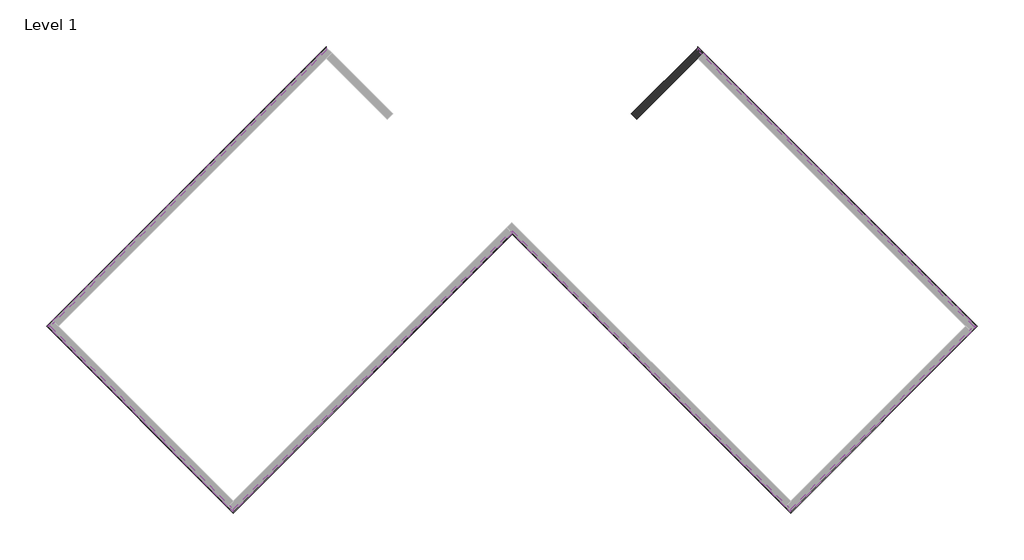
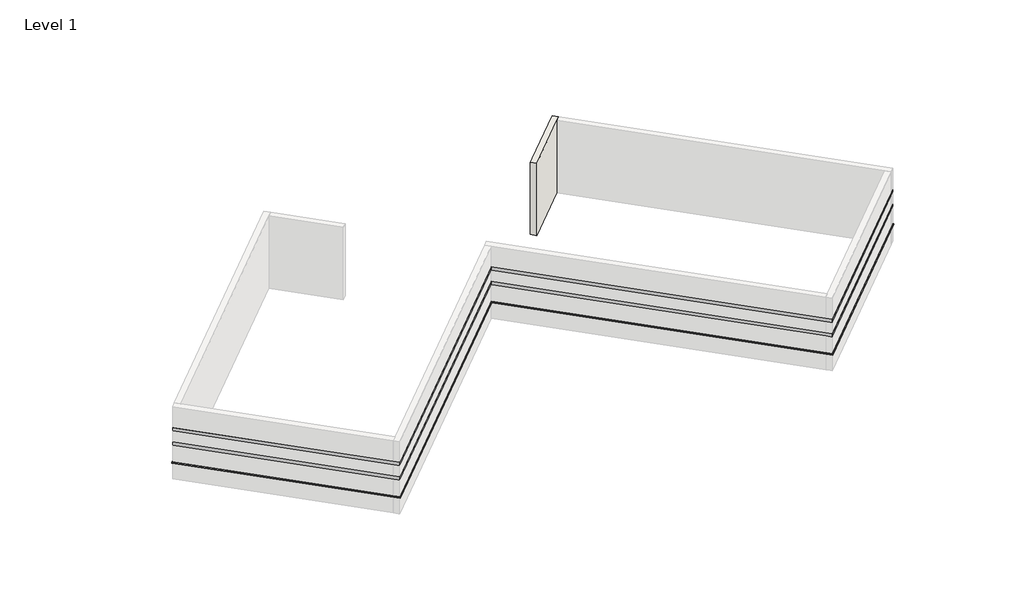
# One storey, part 2 of 2: 18 proxies, 1 wall.
"""IFC4 building model written with IfcOpenShell, lengths in millimetres."""

from ifc_helpers import new_model, si_unit, frame, origin, place, context, project, spatial, polyline, circle_curve, faceted_brep, element, save
from ifc_brep_helpers import plane_surface, cylinder_surface, revolved_surface, advanced_brep

model = new_model("IFC4")

# Units and contexts
model_context = context("Model", 3, world=origin())
ifc_project = project(units=[si_unit("LENGTHUNIT", "METRE", prefix="MILLI")], contexts=[model_context])

# Site, building, storey
site = spatial("IfcSite", under=ifc_project)
building = spatial("IfcBuilding", under=site)
storey = spatial("IfcBuildingStorey", under=building, Name="Level 1", Elevation=0.0)

# Proxies
placement = place(None, origin())
element("IfcBuildingElementProxy", 1, Name="Wall Sweeps", at=placement, inside=storey, context=model_context, shape_type="Brep", body=[
    faceted_brep([(5178.0352806, 10812.8792927, 1085.85), (5178.0352806, 10943.0930065, 1085.85), (5178.0352806, 10992.4844151, 1041.4), (5178.0352806, 10992.4844151, 1016.0), (5178.0352806, 10812.8792927, 1016.0), (17979.3903812, -1988.4758079, 1085.85), (17979.3903812, -1988.4758079, 1016.0), (18158.9955036, -1988.4758079, 1016.0), (18158.9955036, -1988.4758079, 1041.4), (18109.604095, -1988.4758079, 1085.85), (5362.1305311, 10628.7840422, 1085.85), (5362.1305311, 10628.7840422, 1016.0)], [[[0, 1, 2, 3, 4]], [[5, 6, 7, 8, 9]], [[1, 0, 10, 5, 9]], [[2, 1, 9, 8]], [[3, 2, 8, 7]], [[4, 3, 7, 6, 11]], [[0, 4, 11, 6, 5, 10]]]),
])
element("IfcBuildingElementProxy", 2, Name="Wall Sweeps", at=placement, inside=storey, context=model_context, shape_type="Brep", body=[
    faceted_brep([(5178.0352806, 10943.0930065, 2336.8), (5178.0352806, 10943.0930065, 2133.6), (5178.0352806, 10812.8792927, 2133.6), (5178.0352806, 10812.8792927, 2336.8), (18109.604095, -1988.4758079, 2336.8), (17979.3903812, -1988.4758079, 2336.8), (17979.3903812, -1988.4758079, 2133.6), (18109.604095, -1988.4758079, 2133.6), (5427.237388, 10693.8908991, 2336.8), (5427.237388, 10693.8908991, 2133.6), (5362.1305311, 10628.7840422, 2133.6), (5362.1305311, 10628.7840422, 2336.8)], [[[0, 1, 2, 3]], [[4, 5, 6, 7]], [[1, 0, 8, 4, 7, 9]], [[2, 1, 9, 7, 6, 10]], [[3, 2, 10, 6, 5, 11]], [[0, 3, 11, 5, 4, 8]]]),
])
element("IfcBuildingElementProxy", 3, Name="Wall Sweeps", at=placement, inside=storey, context=model_context, shape_type="Brep", body=[
    faceted_brep([(5178.0352806, 10943.0930065, 3251.2), (5178.0352806, 10943.0930065, 3048.0), (5178.0352806, 10812.8792927, 3048.0), (5178.0352806, 10812.8792927, 3251.2), (18109.604095, -1988.4758079, 3251.2), (17979.3903812, -1988.4758079, 3251.2), (17979.3903812, -1988.4758079, 3048.0), (18109.604095, -1988.4758079, 3048.0), (5427.237388, 10693.8908991, 3251.2), (5427.237388, 10693.8908991, 3048.0), (5362.1305311, 10628.7840422, 3048.0), (5362.1305311, 10628.7840422, 3251.2)], [[[0, 1, 2, 3]], [[4, 5, 6, 7]], [[1, 0, 8, 4, 7, 9]], [[2, 1, 9, 7, 6, 10]], [[3, 2, 10, 6, 5, 11]], [[0, 3, 11, 5, 4, 8]]]),
])
element("IfcBuildingElementProxy", 4, Name="Wall Sweeps", at=placement, inside=storey, context=model_context, shape_type="Brep", body=[
    faceted_brep([(17979.3903812, -1988.4758079, 1085.85), (18109.604095, -1988.4758079, 1085.85), (18158.9955036, -1988.4758079, 1041.4), (18158.9955036, -1988.4758079, 1016.0), (17979.3903812, -1988.4758079, 1016.0), (9488.5582187, -10479.3079703, 1085.85), (9488.5582187, -10479.3079703, 1016.0), (9488.5582187, -10658.9130928, 1016.0), (9488.5582187, -10658.9130928, 1041.4), (9488.5582187, -10609.5216841, 1085.85), (17795.2951307, -2172.5710583, 1085.85), (17795.2951307, -2172.5710583, 1016.0)], [[[0, 1, 2, 3, 4]], [[5, 6, 7, 8, 9]], [[1, 0, 10, 5, 9]], [[2, 1, 9, 8]], [[3, 2, 8, 7]], [[4, 3, 7, 6, 11]], [[0, 4, 11, 6, 5, 10]]]),
])
element("IfcBuildingElementProxy", 5, Name="Wall Sweeps", at=placement, inside=storey, context=model_context, shape_type="Brep", body=[
    faceted_brep([(18109.604095, -1988.4758079, 2336.8), (18109.604095, -1988.4758079, 2133.6), (17979.3903812, -1988.4758079, 2133.6), (17979.3903812, -1988.4758079, 2336.8), (9488.5582187, -10609.5216841, 2336.8), (9488.5582187, -10479.3079703, 2336.8), (9488.5582187, -10479.3079703, 2133.6), (9488.5582187, -10609.5216841, 2133.6), (17860.4019876, -2237.6779152, 2336.8), (17860.4019876, -2237.6779152, 2133.6), (17795.2951307, -2172.5710583, 2133.6), (17795.2951307, -2172.5710583, 2336.8)], [[[0, 1, 2, 3]], [[4, 5, 6, 7]], [[1, 0, 8, 4, 7, 9]], [[2, 1, 9, 7, 6, 10]], [[3, 2, 10, 6, 5, 11]], [[0, 3, 11, 5, 4, 8]]]),
])
element("IfcBuildingElementProxy", 6, Name="Wall Sweeps", at=placement, inside=storey, context=model_context, shape_type="Brep", body=[
    faceted_brep([(18109.604095, -1988.4758079, 3251.2), (18109.604095, -1988.4758079, 3048.0), (17979.3903812, -1988.4758079, 3048.0), (17979.3903812, -1988.4758079, 3251.2), (9488.5582187, -10609.5216841, 3251.2), (9488.5582187, -10479.3079703, 3251.2), (9488.5582187, -10479.3079703, 3048.0), (9488.5582187, -10609.5216841, 3048.0), (17860.4019876, -2237.6779152, 3251.2), (17860.4019876, -2237.6779152, 3048.0), (17795.2951307, -2172.5710583, 3048.0), (17795.2951307, -2172.5710583, 3251.2)], [[[0, 1, 2, 3]], [[4, 5, 6, 7]], [[1, 0, 8, 4, 7, 9]], [[2, 1, 9, 7, 6, 10]], [[3, 2, 10, 6, 5, 11]], [[0, 3, 11, 5, 4, 8]]]),
])
element("IfcBuildingElementProxy", 7, Name="Wall Sweeps", at=placement, inside=storey, context=model_context, shape_type="Brep", body=[
    faceted_brep([(9488.5582187, -10479.3079703, 1085.85), (9488.5582187, -10609.5216841, 1085.85), (9488.5582187, -10658.9130928, 1041.4), (9488.5582187, -10658.9130928, 1016.0), (9488.5582187, -10479.3079703, 1016.0), (-3443.0105956, 2452.260844, 1085.85), (-3443.0105956, 2452.260844, 1016.0), (-3443.0105956, 2272.6557216, 1016.0), (-3443.0105956, 2272.6557216, 1041.4), (-3443.0105956, 2322.0471303, 1085.85), (9304.4629682, -10295.2127199, 1085.85), (9304.4629682, -10295.2127199, 1016.0)], [[[0, 1, 2, 3, 4]], [[5, 6, 7, 8, 9]], [[1, 0, 10, 5, 9]], [[2, 1, 9, 8]], [[3, 2, 8, 7]], [[4, 3, 7, 6, 11]], [[0, 4, 11, 6, 5, 10]]]),
])
element("IfcBuildingElementProxy", 8, Name="Wall Sweeps", at=placement, inside=storey, context=model_context, shape_type="Brep", body=[
    faceted_brep([(9488.5582187, -10609.5216841, 2336.8), (9488.5582187, -10609.5216841, 2133.6), (9488.5582187, -10479.3079703, 2133.6), (9488.5582187, -10479.3079703, 2336.8), (-3443.0105956, 2322.0471303, 2336.8), (-3443.0105956, 2452.260844, 2336.8), (-3443.0105956, 2452.260844, 2133.6), (-3443.0105956, 2322.0471303, 2133.6), (9239.3561114, -10360.3195767, 2336.8), (9239.3561114, -10360.3195767, 2133.6), (9304.4629682, -10295.2127199, 2133.6), (9304.4629682, -10295.2127199, 2336.8)], [[[0, 1, 2, 3]], [[4, 5, 6, 7]], [[1, 0, 8, 4, 7, 9]], [[2, 1, 9, 7, 6, 10]], [[3, 2, 10, 6, 5, 11]], [[0, 3, 11, 5, 4, 8]]]),
])
element("IfcBuildingElementProxy", 9, Name="Wall Sweeps", at=placement, inside=storey, context=model_context, shape_type="Brep", body=[
    faceted_brep([(9488.5582187, -10609.5216841, 3251.2), (9488.5582187, -10609.5216841, 3048.0), (9488.5582187, -10479.3079703, 3048.0), (9488.5582187, -10479.3079703, 3251.2), (-3443.0105956, 2322.0471303, 3251.2), (-3443.0105956, 2452.260844, 3251.2), (-3443.0105956, 2452.260844, 3048.0), (-3443.0105956, 2322.0471303, 3048.0), (9239.3561114, -10360.3195767, 3251.2), (9239.3561114, -10360.3195767, 3048.0), (9304.4629682, -10295.2127199, 3048.0), (9304.4629682, -10295.2127199, 3251.2)], [[[0, 1, 2, 3]], [[4, 5, 6, 7]], [[1, 0, 8, 4, 7, 9]], [[2, 1, 9, 7, 6, 10]], [[3, 2, 10, 6, 5, 11]], [[0, 3, 11, 5, 4, 8]]]),
])
element("IfcBuildingElementProxy", 10, Name="Wall Sweeps", at=placement, inside=storey, context=model_context, shape_type="Brep", body=[
    faceted_brep([(-3443.0105956, 2452.260844, 1085.85), (-3443.0105956, 2322.0471303, 1085.85), (-3443.0105956, 2272.6557216, 1041.4), (-3443.0105956, 2272.6557216, 1016.0), (-3443.0105956, 2452.260844, 1016.0), (-16374.5794099, -10479.3079703, 1085.85), (-16374.5794099, -10479.3079703, 1016.0), (-16374.5794099, -10658.9130928, 1016.0), (-16374.5794099, -10658.9130928, 1041.4), (-16374.5794099, -10609.5216841, 1085.85), (-3508.1174525, 2387.1539871, 1085.85), (-3508.1174525, 2387.1539871, 1016.0)], [[[0, 1, 2, 3, 4]], [[5, 6, 7, 8, 9]], [[1, 0, 10, 5, 9]], [[2, 1, 9, 8]], [[3, 2, 8, 7]], [[4, 3, 7, 6, 11]], [[0, 4, 11, 6, 5, 10]]]),
])
element("IfcBuildingElementProxy", 11, Name="Wall Sweeps", at=placement, inside=storey, context=model_context, shape_type="Brep", body=[
    faceted_brep([(-3443.0105956, 2322.0471303, 2336.8), (-3443.0105956, 2322.0471303, 2133.6), (-3443.0105956, 2452.260844, 2133.6), (-3443.0105956, 2452.260844, 2336.8), (-16374.5794099, -10609.5216841, 2336.8), (-16374.5794099, -10479.3079703, 2336.8), (-16374.5794099, -10479.3079703, 2133.6), (-16374.5794099, -10609.5216841, 2133.6), (-3508.1174525, 2387.1539871, 2133.6), (-3508.1174525, 2387.1539871, 2336.8)], [[[0, 1, 2, 3]], [[4, 5, 6, 7]], [[1, 0, 4, 7]], [[2, 1, 7, 6, 8]], [[3, 2, 8, 6, 5, 9]], [[0, 3, 9, 5, 4]]]),
])
element("IfcBuildingElementProxy", 12, Name="Wall Sweeps", at=placement, inside=storey, context=model_context, shape_type="Brep", body=[
    faceted_brep([(-3443.0105956, 2322.0471303, 3251.2), (-3443.0105956, 2322.0471303, 3048.0), (-3443.0105956, 2452.260844, 3048.0), (-3443.0105956, 2452.260844, 3251.2), (-16374.5794099, -10609.5216841, 3251.2), (-16374.5794099, -10479.3079703, 3251.2), (-16374.5794099, -10479.3079703, 3048.0), (-16374.5794099, -10609.5216841, 3048.0), (-3508.1174525, 2387.1539871, 3048.0), (-3508.1174525, 2387.1539871, 3251.2)], [[[0, 1, 2, 3]], [[4, 5, 6, 7]], [[1, 0, 4, 7]], [[2, 1, 7, 6, 8]], [[3, 2, 8, 6, 5, 9]], [[0, 3, 9, 5, 4]]]),
])
element("IfcBuildingElementProxy", 13, Name="Wall Sweeps", at=placement, inside=storey, context=model_context, shape_type="Brep", body=[
    faceted_brep([(-16374.5794099, -10479.3079703, 1085.85), (-16374.5794099, -10609.5216841, 1085.85), (-16374.5794099, -10658.9130928, 1041.4), (-16374.5794099, -10658.9130928, 1016.0), (-16374.5794099, -10479.3079703, 1016.0), (-24865.4115724, -1988.4758079, 1085.85), (-24865.4115724, -1988.4758079, 1016.0), (-25045.0166948, -1988.4758079, 1016.0), (-25045.0166948, -1988.4758079, 1041.4), (-24995.6252862, -1988.4758079, 1085.85), (-16558.6746604, -10295.2127199, 1085.85), (-16558.6746604, -10295.2127199, 1016.0)], [[[0, 1, 2, 3, 4]], [[5, 6, 7, 8, 9]], [[1, 0, 10, 5, 9]], [[2, 1, 9, 8]], [[3, 2, 8, 7]], [[4, 3, 7, 6, 11]], [[0, 4, 11, 6, 5, 10]]]),
])
element("IfcBuildingElementProxy", 14, Name="Wall Sweeps", at=placement, inside=storey, context=model_context, shape_type="Brep", body=[
    faceted_brep([(-16374.5794099, -10609.5216841, 2336.8), (-16374.5794099, -10609.5216841, 2133.6), (-16374.5794099, -10479.3079703, 2133.6), (-16374.5794099, -10479.3079703, 2336.8), (-24995.6252862, -1988.4758079, 2336.8), (-24865.4115724, -1988.4758079, 2336.8), (-24865.4115724, -1988.4758079, 2133.6), (-24995.6252862, -1988.4758079, 2133.6), (-16623.7815173, -10360.3195767, 2336.8), (-16623.7815173, -10360.3195767, 2133.6), (-16558.6746604, -10295.2127199, 2133.6), (-16558.6746604, -10295.2127199, 2336.8)], [[[0, 1, 2, 3]], [[4, 5, 6, 7]], [[1, 0, 8, 4, 7, 9]], [[2, 1, 9, 7, 6, 10]], [[3, 2, 10, 6, 5, 11]], [[0, 3, 11, 5, 4, 8]]]),
])
element("IfcBuildingElementProxy", 15, Name="Wall Sweeps", at=placement, inside=storey, context=model_context, shape_type="Brep", body=[
    faceted_brep([(-16374.5794099, -10609.5216841, 3251.2), (-16374.5794099, -10609.5216841, 3048.0), (-16374.5794099, -10479.3079703, 3048.0), (-16374.5794099, -10479.3079703, 3251.2), (-24995.6252862, -1988.4758079, 3251.2), (-24865.4115724, -1988.4758079, 3251.2), (-24865.4115724, -1988.4758079, 3048.0), (-24995.6252862, -1988.4758079, 3048.0), (-16623.7815173, -10360.3195767, 3251.2), (-16623.7815173, -10360.3195767, 3048.0), (-16558.6746604, -10295.2127199, 3048.0), (-16558.6746604, -10295.2127199, 3251.2)], [[[0, 1, 2, 3]], [[4, 5, 6, 7]], [[1, 0, 8, 4, 7, 9]], [[2, 1, 9, 7, 6, 10]], [[3, 2, 10, 6, 5, 11]], [[0, 3, 11, 5, 4, 8]]]),
])
element("IfcBuildingElementProxy", 16, Name="Wall Sweeps", at=placement, inside=storey, context=model_context, shape_type="Brep", body=[
    faceted_brep([(-24865.4115724, -1988.4758079, 1085.85), (-24995.6252862, -1988.4758079, 1085.85), (-25045.0166948, -1988.4758079, 1041.4), (-25045.0166948, -1988.4758079, 1016.0), (-24865.4115724, -1988.4758079, 1016.0), (-12064.0564718, 10812.8792927, 1085.85), (-12064.0564718, 10812.8792927, 1016.0), (-12064.0564718, 10992.4844151, 1016.0), (-12064.0564718, 10992.4844151, 1041.4), (-12064.0564718, 10943.0930065, 1085.85), (-24681.3163219, -1804.3805574, 1085.85), (-24681.3163219, -1804.3805574, 1016.0)], [[[0, 1, 2, 3, 4]], [[5, 6, 7, 8, 9]], [[1, 0, 10, 5, 9]], [[2, 1, 9, 8]], [[3, 2, 8, 7]], [[4, 3, 7, 6, 11]], [[0, 4, 11, 6, 5, 10]]]),
])
element("IfcBuildingElementProxy", 17, Name="Wall Sweeps", at=placement, inside=storey, context=model_context, shape_type="Brep", body=[
    faceted_brep([(-24995.6252862, -1988.4758079, 2336.8), (-24995.6252862, -1988.4758079, 2133.6), (-24865.4115724, -1988.4758079, 2133.6), (-24865.4115724, -1988.4758079, 2336.8), (-12064.0564718, 10943.0930065, 2336.8), (-12064.0564718, 10812.8792927, 2336.8), (-12064.0564718, 10812.8792927, 2133.6), (-12064.0564718, 10943.0930065, 2133.6), (-24746.4231788, -1739.2737005, 2336.8), (-24746.4231788, -1739.2737005, 2133.6), (-24681.3163219, -1804.3805574, 2133.6), (-24681.3163219, -1804.3805574, 2336.8)], [[[0, 1, 2, 3]], [[4, 5, 6, 7]], [[1, 0, 8, 4, 7, 9]], [[2, 1, 9, 7, 6, 10]], [[3, 2, 10, 6, 5, 11]], [[0, 3, 11, 5, 4, 8]]]),
])
element("IfcBuildingElementProxy", 18, Name="Wall Sweeps", at=placement, inside=storey, context=model_context, shape_type="Brep", body=[
    faceted_brep([(-24995.6252862, -1988.4758079, 3251.2), (-24995.6252862, -1988.4758079, 3048.0), (-24865.4115724, -1988.4758079, 3048.0), (-24865.4115724, -1988.4758079, 3251.2), (-12064.0564718, 10943.0930065, 3251.2), (-12064.0564718, 10812.8792927, 3251.2), (-12064.0564718, 10812.8792927, 3048.0), (-12064.0564718, 10943.0930065, 3048.0), (-24746.4231788, -1739.2737005, 3251.2), (-24746.4231788, -1739.2737005, 3048.0), (-24681.3163219, -1804.3805574, 3048.0), (-24681.3163219, -1804.3805574, 3251.2)], [[[0, 1, 2, 3]], [[4, 5, 6, 7]], [[1, 0, 8, 4, 7, 9]], [[2, 1, 9, 7, 6, 10]], [[3, 2, 10, 6, 5, 11]], [[0, 3, 11, 5, 4, 8]]]),
])

# Wall
element("IfcWall", 19, ObjectType="Exterior - Split Face and CMU on Mtl. Stud", at=placement, inside=storey, context=model_context, shape_type="AdvancedBrep", body=[
    advanced_brep(
    [(2346.973313, 7613.6268242, 0.0), (5178.0352806, 10444.6887918, 0.0), (5427.237388, 10693.8908991, 0.0), (5427.237388, 10693.8908991, 1016.0), (5362.1305311, 10628.7840422, 1016.0), (5362.1305311, 10628.7840422, 1085.85), (5427.237388, 10693.8908991, 1085.85), (5427.237388, 10693.8908991, 2133.6), (5362.1305311, 10628.7840422, 2133.6), (5362.1305311, 10628.7840422, 2336.8), (5427.237388, 10693.8908991, 2336.8), (5427.237388, 10693.8908991, 3048.0), (5362.1305311, 10628.7840422, 3048.0), (5362.1305311, 10628.7840422, 3251.2), (5427.237388, 10693.8908991, 3251.2), (5427.237388, 10693.8908991, 4572.0), (5178.0352806, 10444.6887918, 4572.0), (2346.973313, 7613.6268242, 4572.0), (2102.2428123, 7867.3005381, 4572.0), (2351.4472641, 8116.50499, 4572.0), (5178.0352806, 10943.0930065, 4572.0), (5178.0352806, 10943.0930065, 3251.2), (2351.4472641, 8116.50499, 3251.2), (2286.3398143, 8051.3975402, 3251.2), (2286.3398143, 8051.3975402, 3048.0), (2351.4472641, 8116.50499, 3048.0), (5178.0352806, 10943.0930065, 3048.0), (5178.0352806, 10943.0930065, 2336.8), (2351.4472641, 8116.50499, 2336.8), (2286.3398143, 8051.3975402, 2336.8), (2286.3398143, 8051.3975402, 2133.6), (2351.4472641, 8116.50499, 2133.6), (5178.0352806, 10943.0930065, 2133.6), (5178.0352806, 10943.0930065, 1085.85), (2351.4472641, 8116.50499, 1085.85), (2286.3398143, 8051.3975402, 1085.85), (2286.3398143, 8051.3975402, 1016.0), (2351.4472641, 8116.50499, 1016.0), (5178.0352806, 10943.0930065, 1016.0), (5178.0352806, 10943.0930065, 0.0), (2351.4472641, 8116.50499, 0.0), (2102.2428123, 7867.3005381, 0.0), (2167.2578198, 7802.1018319, 0.0), (5243.1421375, 10877.9861496, 0.0), (2351.3577606, 7986.2017727, 1016.0), (2351.3577606, 7986.2017727, 1085.85), (5178.0352806, 10812.8792927, 1085.85), (5178.0352806, 10812.8792927, 1016.0), (2351.3577606, 7986.2017727, 2133.6), (2351.3577606, 7986.2017727, 2336.8), (5178.0352806, 10812.8792927, 2336.8), (5178.0352806, 10812.8792927, 2133.6), (5178.0352806, 10812.8792927, 3048.0), (2351.3577606, 7986.2017727, 3048.0), (2351.3577606, 7986.2017727, 3251.2), (5178.0352806, 10812.8792927, 3251.2)],
    [
        (0, 1),
        (1, 2),
        (2, 3),
        (3, 4),
        (4, 5),
        (5, 6),
        (6, 7),
        (7, 8),
        (8, 9),
        (9, 10),
        (10, 11),
        (11, 12),
        (12, 13),
        (13, 14),
        (14, 15),
        (15, 16),
        (16, 17),
        (17, 0),
        (18, 19),
        (19, 20),
        (20, 21),
        (21, 22),
        (22, 23),
        (23, 24),
        (24, 25),
        (25, 26),
        (26, 27),
        (27, 28),
        (28, 29),
        (29, 30),
        (30, 31),
        (31, 32),
        (32, 33),
        (33, 34),
        (34, 35),
        (35, 36),
        (36, 37),
        (37, 38),
        (38, 39),
        (39, 40),
        (40, 41),
        (41, 18),
        (15, 20),
        (18, 17, circle_curve(frame((-3443.0105956, 2272.6557216, 4572.0), z_axis=(0.0, 0.0, -1.0), x_axis=(1.0, 0.0, 0.0)), 7877.175)),
        (0, 42, circle_curve(frame((-3443.0105956, 2272.6557216, 0.0), z_axis=(0.0, 0.0, 1.0), x_axis=(1.0, 0.0, 0.0)), 7877.175)),
        (42, 43),
        (43, 2),
        (44, 45),
        (45, 46),
        (46, 47),
        (47, 44),
        (48, 49),
        (49, 50),
        (50, 51),
        (51, 48),
        (52, 53),
        (53, 54),
        (54, 55),
        (55, 52),
        (14, 21),
        (43, 39),
        (38, 3),
        (6, 33),
        (32, 7),
        (10, 27),
        (26, 11),
        (46, 5),
        (4, 47),
        (50, 9),
        (8, 51),
        (55, 13),
        (12, 52),
        (41, 42, circle_curve(frame((-3443.0105956, 2272.6557216, 0.0), z_axis=(0.0, 0.0, -1.0), x_axis=(1.0, 0.0, 0.0)), 7877.175)),
        (45, 35, circle_curve(frame((-3443.0105956, 2272.6557216, 1085.85), z_axis=(0.0, 0.0, 1.0), x_axis=(-0.7040995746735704, 0.7101012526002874, 0.0)), 8137.525)),
        (36, 44, circle_curve(frame((-3443.0105956, 2272.6557216, 1016.0), z_axis=(0.0, 0.0, -1.0), x_axis=(-0.7040995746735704, 0.7101012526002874, 0.0)), 8137.525)),
        (30, 48, circle_curve(frame((-3443.0105956, 2272.6557216, 2133.6), z_axis=(0.0, 0.0, -1.0), x_axis=(-0.7040995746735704, 0.7101012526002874, 0.0)), 8137.525)),
        (29, 49, circle_curve(frame((-3443.0105956, 2272.6557216, 2336.8), z_axis=(0.0, 0.0, -1.0), x_axis=(-0.7040995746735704, 0.7101012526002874, 0.0)), 8137.525)),
        (24, 53, circle_curve(frame((-3443.0105956, 2272.6557216, 3048.0), z_axis=(0.0, 0.0, -1.0), x_axis=(-0.7040995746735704, 0.7101012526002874, 0.0)), 8137.525)),
        (23, 54, circle_curve(frame((-3443.0105956, 2272.6557216, 3251.2), z_axis=(0.0, 0.0, -1.0), x_axis=(-0.7040995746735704, 0.7101012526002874, 0.0)), 8137.525)),
    ],
    [
        plane_surface(frame((2409.8713313, 7676.5248424, 0.0), z_axis=(0.7071067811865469, -0.7071067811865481, 0.0), x_axis=(0.7071067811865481, 0.7071067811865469, 0.0))),
        plane_surface(frame((2160.6692239, 7925.7269498, 0.0), z_axis=(-0.7071067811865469, 0.7071067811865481, 0.0), x_axis=(-0.7071067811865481, -0.7071067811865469, 0.0))),
        plane_surface(frame((5302.6363343, 10569.2898454, 4572.0), z_axis=(0.0, 0.0, 1.0), x_axis=(-0.707106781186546, 0.7071067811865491, 0.0))),
        plane_surface(frame((2475.22429, 7741.8778012, 0.0), z_axis=(0.0, 0.0, -1.0), x_axis=(-0.7071067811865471, 0.7071067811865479, 0.0))),
        plane_surface(frame((2351.3577606, 7986.2017727, 1016.0), z_axis=(-0.7071067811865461, 0.7071067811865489, 0.0), x_axis=(0.7071067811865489, 0.7071067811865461, 0.0))),
        plane_surface(frame((2351.3577606, 7986.2017727, 2133.6), z_axis=(-0.7071067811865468, 0.7071067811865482, 0.0), x_axis=(0.7071067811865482, 0.7071067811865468, 0.0))),
        plane_surface(frame((2351.3577606, 7986.2017727, 3048.0), z_axis=(-0.7071067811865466, 0.7071067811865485, 0.0), x_axis=(0.7071067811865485, 0.7071067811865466, 0.0))),
        plane_surface(frame((5178.0352806, 10943.0930065, 0.0), z_axis=(0.7071067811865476, 0.7071067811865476, 0.0), x_axis=(-0.7071067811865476, 0.7071067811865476, 0.0))),
        plane_surface(frame((5178.0352806, 10812.8792927, 1016.0), z_axis=(0.7071067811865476, 0.7071067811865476, 0.0), x_axis=(0.7071067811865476, -0.7071067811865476, 0.0))),
        plane_surface(frame((5178.0352806, 10812.8792927, 2133.6), z_axis=(0.7071067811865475, 0.7071067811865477, 0.0), x_axis=(0.7071067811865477, -0.7071067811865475, 0.0))),
        plane_surface(frame((5178.0352806, 10812.8792927, 3048.0), z_axis=(0.7071067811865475, 0.7071067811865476, 0.0), x_axis=(0.7071067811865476, -0.7071067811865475, 0.0))),
        revolved_surface(polyline([(4434.1644044, 2272.6557216, 0.0), (4434.1644044, 2272.6557216, 4572.0)]), (-3443.0105956, 2272.6557216, 0.0), (0.0, 0.0, -1.0)),
        plane_surface(frame((0.0, 0.0, 0.0), z_axis=(0.0, 0.0, -1.0), x_axis=(1.0, 0.0, 0.0))),
        plane_surface(frame((-3443.0105956, 2272.6557216, 1085.85), z_axis=(0.0, 0.0, -1.0), x_axis=(-0.7040995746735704, 0.7101012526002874, 0.0))),
        plane_surface(frame((-3443.0105956, 2272.6557216, 1016.0), z_axis=(0.0, 0.0, 1.0), x_axis=(-0.7040995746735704, 0.7101012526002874, 0.0))),
        cylinder_surface(frame((-3443.0105956, 2272.6557216, 1016.0), z_axis=(0.0, 0.0, -1.0), x_axis=(-0.7040995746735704, 0.7101012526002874, 0.0)), 8137.525),
        plane_surface(frame((-3443.0105956, 2272.6557216, 2133.6), z_axis=(0.0, 0.0, 1.0), x_axis=(-0.7040995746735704, 0.7101012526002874, 0.0))),
        cylinder_surface(frame((-3443.0105956, 2272.6557216, 2133.6), z_axis=(0.0, 0.0, -1.0), x_axis=(-0.7040995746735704, 0.7101012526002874, 0.0)), 8137.525),
        plane_surface(frame((-3443.0105956, 2272.6557216, 2336.8), z_axis=(0.0, 0.0, -1.0), x_axis=(-0.7040995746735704, 0.7101012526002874, 0.0))),
        plane_surface(frame((-3443.0105956, 2272.6557216, 3048.0), z_axis=(0.0, 0.0, 1.0), x_axis=(-0.7040995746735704, 0.7101012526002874, 0.0))),
        cylinder_surface(frame((-3443.0105956, 2272.6557216, 3048.0), z_axis=(0.0, 0.0, -1.0), x_axis=(-0.7040995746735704, 0.7101012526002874, 0.0)), 8137.525),
        plane_surface(frame((-3443.0105956, 2272.6557216, 3251.2), z_axis=(0.0, 0.0, -1.0), x_axis=(-0.7040995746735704, 0.7101012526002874, 0.0))),
    ],
    [
        (0, [[1, 2, 3, 4, 5, 6, 7, 8, 9, 10, 11, 12, 13, 14, 15, 16, 17, 18]]),
        (1, [[19, 20, 21, 22, 23, 24, 25, 26, 27, 28, 29, 30, 31, 32, 33, 34, 35, 36, 37, 38, 39, 40, 41, 42]]),
        (2, [[-17, -16, 43, -20, -19, 44]]),
        (3, [[-2, -1, 45, 46, 47]]),
        (4, [[48, 49, 50, 51]]),
        (5, [[52, 53, 54, 55]]),
        (6, [[56, 57, 58, 59]]),
        (7, [[-43, -15, 60, -21]]),
        (7, [[-47, 61, -39, 62, -3]]),
        (7, [[-7, 63, -33, 64]]),
        (7, [[65, -27, 66, -11]]),
        (8, [[-50, 67, -5, 68]]),
        (9, [[-54, 69, -9, 70]]),
        (10, [[-59, 71, -13, 72]]),
        (11, [[-18, -44, -42, 73, -45]]),
        (12, [[-41, -40, -61, -46, -73]]),
        (13, [[-49, 74, -35, -34, -63, -6, -67]]),
        (14, [[-51, -68, -4, -62, -38, -37, 75]]),
        (15, [[-48, -75, -36, -74]]),
        (16, [[-55, -70, -8, -64, -32, -31, 76]]),
        (17, [[-52, -76, -30, 77]]),
        (18, [[-53, -77, -29, -28, -65, -10, -69]]),
        (19, [[-56, -72, -12, -66, -26, -25, 78]]),
        (20, [[-57, -78, -24, 79]]),
        (21, [[-58, -79, -23, -22, -60, -14, -71]]),
    ],
),
])

save(model, "model.ifc")
